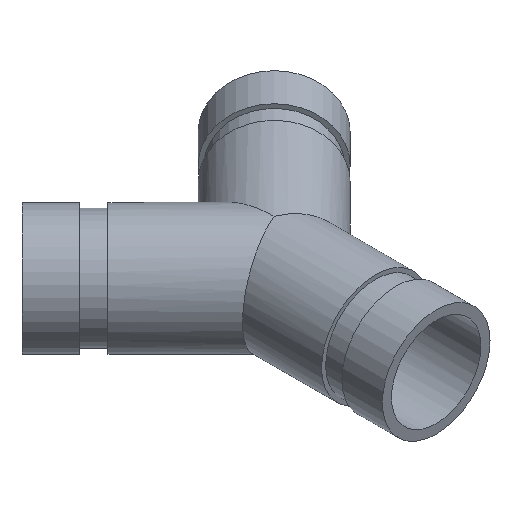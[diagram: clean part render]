
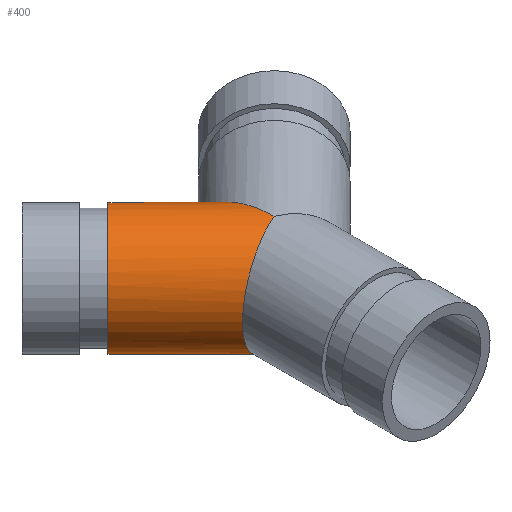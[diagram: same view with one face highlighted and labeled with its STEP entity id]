
A CAD part, isometric view. The second image highlights one B-rep face of the part: STEP entity #400.
In plain terms, the highlighted cylindrical face has radius 21.082 mm (diameter 42.164 mm), a full revolution.
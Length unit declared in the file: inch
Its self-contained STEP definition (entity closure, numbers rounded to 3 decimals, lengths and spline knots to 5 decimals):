
#76=FACE_OUTER_BOUND('',#103,.T.);
#103=EDGE_LOOP('',(#314,#315,#316,#317,#318,#319,#320,#321));
#118=ELLIPSE('',#470,1.1738,0.83);
#119=ELLIPSE('',#471,0.89839,0.83);
#120=ELLIPSE('',#472,0.89839,0.83);
#121=ELLIPSE('',#473,1.1738,0.83);
#131=LINE('',#735,#143);
#143=VECTOR('',#595,0.83);
#156=CIRCLE('',#446,0.83);
#157=CIRCLE('',#447,0.83);
#186=VERTEX_POINT('',#686);
#187=VERTEX_POINT('',#687);
#202=VERTEX_POINT('',#730);
#203=VERTEX_POINT('',#731);
#204=VERTEX_POINT('',#733);
#205=VERTEX_POINT('',#736);
#223=EDGE_CURVE('',#186,#187,#156,.T.);
#224=EDGE_CURVE('',#187,#186,#157,.T.);
#243=EDGE_CURVE('',#202,#203,#118,.T.);
#244=EDGE_CURVE('',#204,#202,#119,.T.);
#245=EDGE_CURVE('',#204,#187,#131,.T.);
#246=EDGE_CURVE('',#205,#204,#120,.T.);
#247=EDGE_CURVE('',#203,#205,#121,.T.);
#314=ORIENTED_EDGE('',*,*,#243,.F.);
#315=ORIENTED_EDGE('',*,*,#244,.F.);
#316=ORIENTED_EDGE('',*,*,#245,.T.);
#317=ORIENTED_EDGE('',*,*,#224,.T.);
#318=ORIENTED_EDGE('',*,*,#223,.T.);
#319=ORIENTED_EDGE('',*,*,#245,.F.);
#320=ORIENTED_EDGE('',*,*,#246,.F.);
#321=ORIENTED_EDGE('',*,*,#247,.F.);
#359=CYLINDRICAL_SURFACE('',#469,0.83);
#400=ADVANCED_FACE('',(#76),#359,.T.);
#446=AXIS2_PLACEMENT_3D('',#688,#539,#540);
#447=AXIS2_PLACEMENT_3D('',#689,#541,#542);
#469=AXIS2_PLACEMENT_3D('',#729,#589,#590);
#470=AXIS2_PLACEMENT_3D('',#732,#591,#592);
#471=AXIS2_PLACEMENT_3D('',#734,#593,#594);
#472=AXIS2_PLACEMENT_3D('',#737,#596,#597);
#473=AXIS2_PLACEMENT_3D('',#738,#598,#599);
#539=DIRECTION('center_axis',(0.707,-0.707,0.));
#540=DIRECTION('ref_axis',(0.707,0.707,0.));
#541=DIRECTION('center_axis',(0.707,-0.707,0.));
#542=DIRECTION('ref_axis',(0.707,0.707,0.));
#589=DIRECTION('center_axis',(0.707,-0.707,0.));
#590=DIRECTION('ref_axis',(0.707,0.707,0.));
#591=DIRECTION('center_axis',(1.,0.,0.));
#592=DIRECTION('ref_axis',(0.,1.,0.));
#593=DIRECTION('center_axis',(0.383,-0.924,0.));
#594=DIRECTION('ref_axis',(0.924,0.383,0.));
#595=DIRECTION('',(-0.707,0.707,0.));
#596=DIRECTION('center_axis',(0.383,-0.924,0.));
#597=DIRECTION('ref_axis',(0.924,0.383,0.));
#598=DIRECTION('center_axis',(1.,0.,0.));
#599=DIRECTION('ref_axis',(0.,1.,0.));
#686=CARTESIAN_POINT('',(-0.69438,1.86818,0.));
#687=CARTESIAN_POINT('',(-1.86818,0.69438,0.));
#688=CARTESIAN_POINT('Origin',(-1.28128,1.28128,0.));
#689=CARTESIAN_POINT('Origin',(-1.28128,1.28128,0.));
#729=CARTESIAN_POINT('Origin',(-1.94454,1.94454,0.));
#730=CARTESIAN_POINT('',(0.,0.,-0.83));
#731=CARTESIAN_POINT('',(0.,1.1738,0.));
#732=CARTESIAN_POINT('Origin',(0.,0.,
0.));
#733=CARTESIAN_POINT('',(-0.83,-0.3438,0.));
#734=CARTESIAN_POINT('Origin',(0.,0.,
0.));
#735=CARTESIAN_POINT('',(-2.53144,1.35765,0.));
#736=CARTESIAN_POINT('',(0.,0.,0.83));
#737=CARTESIAN_POINT('Origin',(0.,0.,
0.));
#738=CARTESIAN_POINT('Origin',(0.,0.,
0.));
